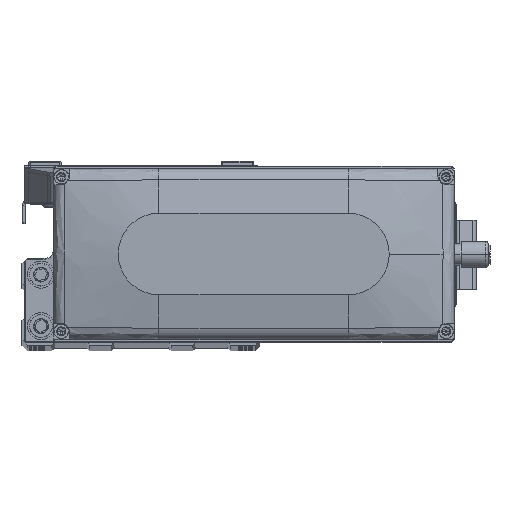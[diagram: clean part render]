
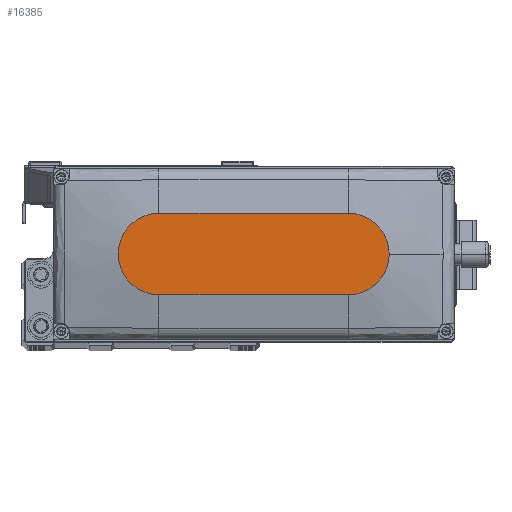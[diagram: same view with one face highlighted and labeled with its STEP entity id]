
A CAD part, top view. The second image highlights one B-rep face of the part: STEP entity #16385.
In plain terms, the highlighted planar face has unit normal (0, 0, 1).
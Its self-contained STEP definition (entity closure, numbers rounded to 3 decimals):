
#1342 = DIRECTION ( 'NONE',  ( 0., 0., 1. ) ) ;
#2095 = DIRECTION ( 'NONE',  ( 1., 0., 0. ) ) ;
#2809 = CARTESIAN_POINT ( 'NONE',  ( -35., -15., 35. ) ) ;
#3112 = CIRCLE ( 'NONE', #32452, 15. ) ;
#3979 = AXIS2_PLACEMENT_3D ( 'NONE', #10539, #26543, #42557 ) ;
#5635 = CIRCLE ( 'NONE', #34966, 15. ) ;
#7570 = DIRECTION ( 'NONE',  ( 1., 0., 0. ) ) ;
#8077 = LINE ( 'NONE', #24103, #47656 ) ;
#10539 = CARTESIAN_POINT ( 'NONE',  ( 35., 0., 35. ) ) ;
#11246 = CARTESIAN_POINT ( 'NONE',  ( 50., 0., 35. ) ) ;
#11517 = PLANE ( 'NONE',  #34809 ) ;
#15035 = ORIENTED_EDGE ( 'NONE', *, *, #44012, .T. ) ;
#16039 = DIRECTION ( 'NONE',  ( 1., 0., 0. ) ) ;
#16385 = ADVANCED_FACE ( 'NONE', ( #47453 ), #11517, .T. ) ;
#17361 = DIRECTION ( 'NONE',  ( 1., 0., 0. ) ) ;
#18249 = VERTEX_POINT ( 'NONE', #20387 ) ;
#20387 = CARTESIAN_POINT ( 'NONE',  ( -35., 15., 35. ) ) ;
#22047 = CARTESIAN_POINT ( 'NONE',  ( -35., 0., 35. ) ) ;
#22397 = VERTEX_POINT ( 'NONE', #32188 ) ;
#24103 = CARTESIAN_POINT ( 'NONE',  ( -35., 15., 35. ) ) ;
#25678 = VECTOR ( 'NONE', #16039, 1000. ) ;
#26543 = DIRECTION ( 'NONE',  ( 0., 0., 1. ) ) ;
#26601 = CIRCLE ( 'NONE', #3979, 15. ) ;
#27523 = CARTESIAN_POINT ( 'NONE',  ( 0., 0., 35. ) ) ;
#29621 = VERTEX_POINT ( 'NONE', #11246 ) ;
#29739 = EDGE_CURVE ( 'NONE', #22397, #18249, #8077, .T. ) ;
#30865 = ORIENTED_EDGE ( 'NONE', *, *, #41063, .T. ) ;
#32188 = CARTESIAN_POINT ( 'NONE',  ( 35., 15., 35. ) ) ;
#32452 = AXIS2_PLACEMENT_3D ( 'NONE', #37290, #1342, #17361 ) ;
#32593 = EDGE_CURVE ( 'NONE', #34920, #37362, #38753, .T. ) ;
#32650 = CARTESIAN_POINT ( 'NONE',  ( 35., -15., 35. ) ) ;
#34809 = AXIS2_PLACEMENT_3D ( 'NONE', #27523, #43532, #7570 ) ;
#34920 = VERTEX_POINT ( 'NONE', #50253 ) ;
#34966 = AXIS2_PLACEMENT_3D ( 'NONE', #22047, #38037, #2095 ) ;
#36953 = ORIENTED_EDGE ( 'NONE', *, *, #32593, .T. ) ;
#37290 = CARTESIAN_POINT ( 'NONE',  ( 35., 0., 35. ) ) ;
#37362 = VERTEX_POINT ( 'NONE', #32650 ) ;
#37534 = ORIENTED_EDGE ( 'NONE', *, *, #45730, .T. ) ;
#38037 = DIRECTION ( 'NONE',  ( 0., 0., 1. ) ) ;
#38753 = LINE ( 'NONE', #2809, #25678 ) ;
#40096 = DIRECTION ( 'NONE',  ( -1., 0., 0. ) ) ;
#40565 = EDGE_LOOP ( 'NONE', ( #46425, #30865, #36953, #37534, #15035 ) ) ;
#41063 = EDGE_CURVE ( 'NONE', #18249, #34920, #5635, .T. ) ;
#42557 = DIRECTION ( 'NONE',  ( 1., 0., 0. ) ) ;
#43532 = DIRECTION ( 'NONE',  ( 0., 0., 1. ) ) ;
#44012 = EDGE_CURVE ( 'NONE', #29621, #22397, #3112, .T. ) ;
#45730 = EDGE_CURVE ( 'NONE', #37362, #29621, #26601, .T. ) ;
#46425 = ORIENTED_EDGE ( 'NONE', *, *, #29739, .T. ) ;
#47453 = FACE_OUTER_BOUND ( 'NONE', #40565, .T. ) ;
#47656 = VECTOR ( 'NONE', #40096, 1000. ) ;
#50253 = CARTESIAN_POINT ( 'NONE',  ( -35., -15., 35. ) ) ;
